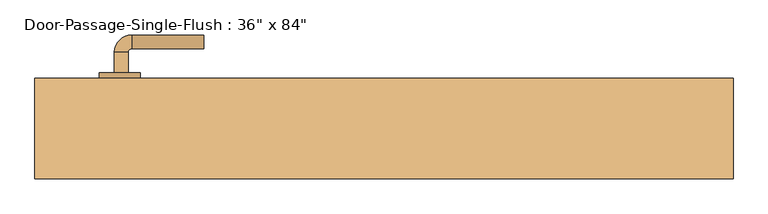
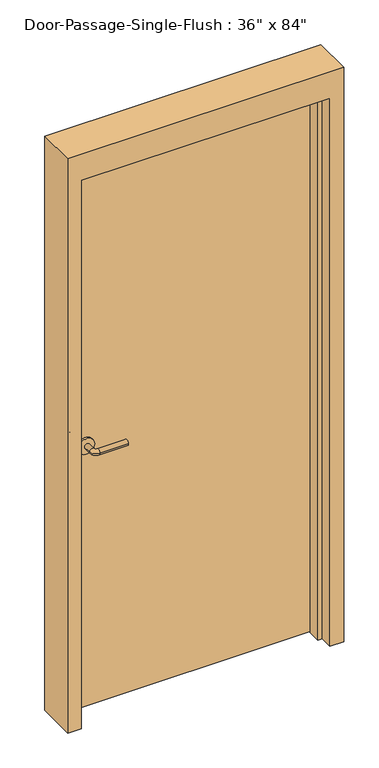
"""IFC4 building model written with IfcOpenShell, lengths in millimetres: door geometry."""

from ifc_helpers import new_model, si_unit, point, frame, frame_2d, origin, origin_with_axes, place, context, project, spatial, polyline, circle_curve, ellipse_curve, trimmed, segment, composite_curve, outline, extrude, faceted_brep, source, transform, mapped, element, save
from ifc_brep_helpers import plane_surface, cylinder_surface, revolved_surface, advanced_brep


def door_a46f4f49(model_context):
    return source(origin(), model_context, "Body", "SolidModel", [
        advanced_brep(
        [(-392.190625, 23.75, 1016.0), (-372.190625, 23.75, 1016.0), (-372.190625, -6.25, 1016.0), (-392.190625, -6.25, 1016.0), (-367.190625, -11.25, 1016.0), (-367.190625, -31.25, 1016.0), (-262.190625, -31.25, 1016.0), (-262.190625, -11.25, 1016.0)],
        [
            (0, 1, circle_curve(frame((-382.190625, 23.75, 1016.0), z_axis=(0.0, 1.0, 0.0), x_axis=(1.0, 0.0, 0.0)), 10.0)),
            (1, 0, circle_curve(frame((-382.190625, 23.75, 1016.0), z_axis=(0.0, 1.0, 0.0), x_axis=(1.0, 0.0, 0.0)), 10.0)),
            (1, 2),
            (2, 3, circle_curve(frame((-382.190625, -6.25, 1016.0), z_axis=(0.0, 1.0, 0.0), x_axis=(1.0, 0.0, 0.0)), 10.0)),
            (3, 0),
            (3, 2, circle_curve(frame((-382.190625, -6.25, 1016.0), z_axis=(0.0, 1.0, 0.0), x_axis=(1.0, 0.0, 0.0)), 10.0)),
            (4, 5, circle_curve(frame((-367.190625, -21.25, 1016.0), z_axis=(-1.0, 0.0, 0.0), x_axis=(0.0, 1.0, 0.0)), 10.0)),
            (5, 3, circle_curve(frame((-367.190625, -6.25, 1016.0), z_axis=(0.0, 0.0, -1.0), x_axis=(-1.0, 0.0, 0.0)), 25.0)),
            (2, 4, circle_curve(frame((-367.190625, -6.25, 1016.0), z_axis=(0.0, 0.0, 1.0), x_axis=(-1.0, 0.0, 0.0)), 5.0)),
            (5, 4, circle_curve(frame((-367.190625, -21.25, 1016.0), z_axis=(-1.0, 0.0, 0.0), x_axis=(0.0, 1.0, 0.0)), 10.0)),
            (6, 7, circle_curve(frame((-262.190625, -21.25, 1016.0), z_axis=(1.0, 0.0, 0.0), x_axis=(0.0, 1.0, 0.0)), 10.0)),
            (7, 6, circle_curve(frame((-262.190625, -21.25, 1016.0), z_axis=(1.0, 0.0, 0.0), x_axis=(0.0, 1.0, 0.0)), 10.0)),
            (4, 7),
            (6, 5),
        ],
        [
            plane_surface(frame((-382.190625, 23.75, 1016.0), z_axis=(0.0, 1.0, 0.0), x_axis=(0.0, 0.0, 1.0))),
            cylinder_surface(frame((-382.190625, 23.75, 1016.0), z_axis=(0.0, 1.0, 0.0), x_axis=(1.0, 0.0, 0.0)), 10.0),
            revolved_surface(trimmed(ellipse_curve(frame((-382.190625, -6.25, 1016.0), z_axis=(0.0, -1.0, 0.0), x_axis=(1.0, 0.0, 0.0)), 10.0, 10.0), [point((-392.190625, -6.25, 1016.0))], [point((-372.190625, -6.25, 1016.0))], True, "CARTESIAN"), (-367.190625, -6.25, 1016.0), (0.0, 0.0, -1.0)),
            revolved_surface(trimmed(ellipse_curve(frame((-382.190625, -6.25, 1016.0), z_axis=(0.0, -1.0, 0.0), x_axis=(1.0, 0.0, 0.0)), 10.0, 10.0), [point((-372.190625, -6.25, 1016.0))], [point((-392.190625, -6.25, 1016.0))], True, "CARTESIAN"), (-367.190625, -6.25, 1016.0), (0.0, 0.0, -1.0)),
            plane_surface(frame((-262.190625, -21.25, 1016.0), z_axis=(1.0, 0.0, 0.0), x_axis=(0.0, 0.0, 1.0))),
            cylinder_surface(frame((-367.190625, -21.25, 1016.0), z_axis=(-1.0, 0.0, 0.0), x_axis=(0.0, 1.0, 0.0)), 10.0),
        ],
        [
            (0, [[1, 2]]),
            (1, [[3, 4, 5, -2]]),
            (1, [[-5, 6, -3, -1]]),
            (2, [[7, 8, -4, 9]]),
            (3, [[10, -9, -6, -8]]),
            (4, [[11, 12]]),
            (5, [[13, -11, 14, -7]]),
            (5, [[-14, -12, -13, -10]]),
        ],
    ),
        extrude(outline(composite_curve([segment(trimmed(circle_curve(frame_2d((1016.0, -384.690625)), 30.0), [point((1016.0, -414.690625))], [point((1016.0, -354.690625))], False, "CARTESIAN"), True, "CONTINUOUS"), segment(trimmed(circle_curve(frame_2d((1016.0, -384.690625)), 30.0), [point((1016.0, -354.690625))], [point((1016.0, -414.690625))], False, "CARTESIAN"), True, "CONTINUOUS")], self_intersect=False)), frame((0.0, 23.75, 0.0), z_axis=(0.0, 1.0, 0.0), x_axis=(0.0, 0.0, 1.0)), (0.0, 0.0, 1.0), 8.0),
        advanced_brep(
        [(-392.190625, 84.2, 1016.0), (-372.190625, 84.2, 1016.0), (-392.190625, 114.2, 1016.0), (-372.190625, 114.2, 1016.0), (-367.190625, 119.2, 1016.0), (-367.190625, 139.2, 1016.0), (-262.190625, 139.2, 1016.0), (-262.190625, 119.2, 1016.0)],
        [
            (0, 1, circle_curve(frame((-382.190625, 84.2, 1016.0), z_axis=(0.0, -1.0, 0.0), x_axis=(1.0, 0.0, 0.0)), 10.0)),
            (1, 0, circle_curve(frame((-382.190625, 84.2, 1016.0), z_axis=(0.0, -1.0, 0.0), x_axis=(1.0, 0.0, 0.0)), 10.0)),
            (0, 2),
            (2, 3, circle_curve(frame((-382.190625, 114.2, 1016.0), z_axis=(0.0, -1.0, 0.0), x_axis=(1.0, 0.0, 0.0)), 10.0)),
            (3, 1),
            (3, 2, circle_curve(frame((-382.190625, 114.2, 1016.0), z_axis=(0.0, -1.0, 0.0), x_axis=(1.0, 0.0, 0.0)), 10.0)),
            (4, 3, circle_curve(frame((-367.190625, 114.2, 1016.0), z_axis=(0.0, 0.0, 1.0), x_axis=(-1.0, 0.0, 0.0)), 5.0)),
            (2, 5, circle_curve(frame((-367.190625, 114.2, 1016.0), z_axis=(0.0, 0.0, -1.0), x_axis=(-1.0, 0.0, 0.0)), 25.0)),
            (5, 4, circle_curve(frame((-367.190625, 129.2, 1016.0), z_axis=(-1.0, 0.0, 0.0), x_axis=(0.0, -1.0, 0.0)), 10.0)),
            (4, 5, circle_curve(frame((-367.190625, 129.2, 1016.0), z_axis=(-1.0, 0.0, 0.0), x_axis=(0.0, -1.0, 0.0)), 10.0)),
            (6, 7, circle_curve(frame((-262.190625, 129.2, 1016.0), z_axis=(1.0, 0.0, 0.0), x_axis=(0.0, -1.0, 0.0)), 10.0)),
            (7, 6, circle_curve(frame((-262.190625, 129.2, 1016.0), z_axis=(1.0, 0.0, 0.0), x_axis=(0.0, -1.0, 0.0)), 10.0)),
            (5, 6),
            (7, 4),
        ],
        [
            plane_surface(frame((-382.190625, 84.2, 1016.0), z_axis=(0.0, -1.0, 0.0), x_axis=(0.0, 0.0, 1.0))),
            cylinder_surface(frame((-382.190625, 84.2, 1016.0), z_axis=(0.0, -1.0, 0.0), x_axis=(1.0, 0.0, 0.0)), 10.0),
            revolved_surface(trimmed(ellipse_curve(frame((-382.190625, 114.2, 1016.0), z_axis=(0.0, -1.0, 0.0), x_axis=(1.0, 0.0, 0.0)), 10.0, 10.0), [point((-392.190625, 114.2, 1016.0))], [point((-372.190625, 114.2, 1016.0))], True, "CARTESIAN"), (-367.190625, 114.2, 1016.0), (0.0, 0.0, -1.0)),
            revolved_surface(trimmed(ellipse_curve(frame((-382.190625, 114.2, 1016.0), z_axis=(0.0, -1.0, 0.0), x_axis=(1.0, 0.0, 0.0)), 10.0, 10.0), [point((-372.190625, 114.2, 1016.0))], [point((-392.190625, 114.2, 1016.0))], True, "CARTESIAN"), (-367.190625, 114.2, 1016.0), (0.0, 0.0, -1.0)),
            plane_surface(frame((-262.190625, 129.2, 1016.0), z_axis=(1.0, 0.0, 0.0), x_axis=(0.0, 0.0, 1.0))),
            cylinder_surface(frame((-367.190625, 129.2, 1016.0), z_axis=(-1.0, 0.0, 0.0), x_axis=(0.0, -1.0, 0.0)), 10.0),
        ],
        [
            (0, [[1, 2]]),
            (1, [[-1, 3, 4, 5]]),
            (1, [[-2, -5, 6, -3]]),
            (2, [[7, -4, 8, 9]]),
            (3, [[-8, -6, -7, 10]]),
            (4, [[11, 12]]),
            (5, [[-9, 13, -12, 14]]),
            (5, [[-10, -14, -11, -13]]),
        ],
    ),
        extrude(outline(composite_curve([segment(trimmed(circle_curve(frame_2d((1016.0, -384.690625)), 30.0), [point((1016.0, -414.690625))], [point((1016.0, -354.690625))], False, "CARTESIAN"), True, "CONTINUOUS"), segment(trimmed(circle_curve(frame_2d((1016.0, -384.690625)), 30.0), [point((1016.0, -354.690625))], [point((1016.0, -414.690625))], False, "CARTESIAN"), True, "CONTINUOUS")], self_intersect=False)), frame((0.0, 76.2, 0.0), z_axis=(0.0, 1.0, 0.0), x_axis=(0.0, 0.0, 1.0)), (0.0, 0.0, 1.0), 8.0),
        faceted_brep([(457.2, 26.9875, 0.0), (457.2, 76.2, 0.0), (508.0, 76.2, 0.0), (508.0, -69.85, 0.0), (457.2, -69.85, 0.0), (457.2, -20.6375, 0.0), (441.325, -20.6375, 0.0), (441.325, 26.9875, 0.0), (457.2, 26.9875, 2133.6), (457.2, 76.2, 2133.6), (-457.2, 76.2, 2133.6), (-457.2, 76.2, 0.0), (-508.0, 76.2, 0.0), (-508.0, 76.2, 2235.2), (508.0, 76.2, 2235.2), (508.0, -69.85, 2235.2), (-508.0, -69.85, 2235.2), (-508.0, -69.85, 0.0), (-457.2, -69.85, 0.0), (-457.2, -69.85, 2133.6), (457.2, -69.85, 2133.6), (457.2, -20.6375, 2133.6), (-457.2, -20.6375, 2133.6), (-457.2, -20.6375, 0.0), (-441.325, -20.6375, 0.0), (-441.325, -20.6375, 2117.725), (441.325, -20.6375, 2117.725), (441.325, 26.9875, 2117.725), (-441.325, 26.9875, 2117.725), (-441.325, 26.9875, 0.0), (-457.2, 26.9875, 0.0), (-457.2, 26.9875, 2133.6)], [[[0, 1, 2, 3, 4, 5, 6, 7]], [[1, 0, 8, 9]], [[2, 1, 9, 10, 11, 12, 13, 14]], [[3, 2, 14, 15]], [[4, 3, 15, 16, 17, 18, 19, 20]], [[5, 4, 20, 21]], [[6, 5, 21, 22, 23, 24, 25, 26]], [[7, 6, 26, 27]], [[0, 7, 27, 28, 29, 30, 31, 8]], [[9, 8, 31, 10]], [[20, 19, 22, 21]], [[26, 25, 28, 27]], [[12, 11, 30, 29, 24, 23, 18, 17]], [[11, 10, 31, 30]], [[13, 12, 17, 16]], [[19, 18, 23, 22]], [[25, 24, 29, 28]], [[15, 14, 13, 16]]]),
        extrude(outline(polyline([(457.2, 31.75), (-457.2, 31.75), (-457.2, 76.2), (457.2, 76.2), (457.2, 31.75)])), origin_with_axes(), (0.0, 0.0, 1.0), 2133.6),
    ])


if __name__ == "__main__":
    model = new_model("IFC4")
    model_context = context("Model", 3, world=origin())
    ifc_project = project(units=[si_unit("LENGTHUNIT", "METRE", prefix="MILLI")], contexts=[model_context])
    site = spatial("IfcSite", under=ifc_project)
    building = spatial("IfcBuilding", under=site)
    placement = place(None, origin())
    door_shape = door_a46f4f49(model_context)
    element("IfcDoor", 1, ObjectType="Door-Passage-Single-Flush : 36\" x 84\"", at=placement, inside=building, context=model_context, shape_type="MappedRepresentation", body=[
        mapped(door_shape, transform((0.0, 0.0, 0.0), x_axis=(1.0, 0.0, 0.0), y_axis=(0.0, 1.0, 0.0), z_axis=(0.0, 0.0, 1.0))),
    ])
    save(model, "model.ifc")
